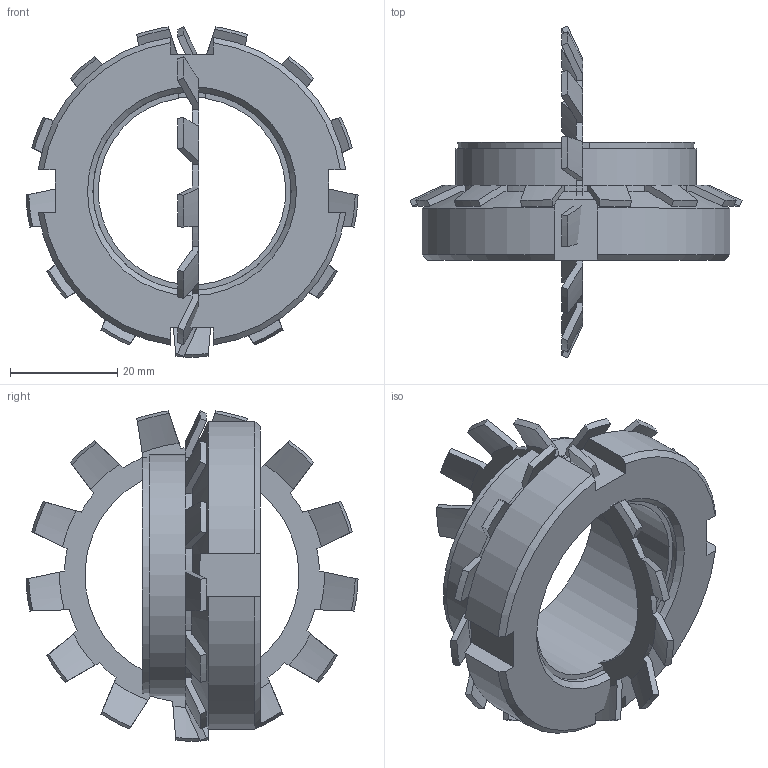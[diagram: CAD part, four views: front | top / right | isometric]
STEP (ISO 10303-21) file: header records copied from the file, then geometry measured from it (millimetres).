
FILE_DESCRIPTION( ( 'Unknown' ), '1' );
FILE_NAME( 'C:/Dokumente und Einstellungen/Sven/Desktop/homepage/cad - homepage/KBS51/KBS 51 - 35 x 45.stp', 'Unknown', ( 'Unknown' ), ( 'Unknown' ), 'XStep 1.0', 'Unknown', ' ' );
FILE_SCHEMA( ( 'automotive_design' ) );
Length unit declared in the file: millimetre
Products named in the file (3): Assem1; KBS 51 - 35 x 45; 08570082_locking_plate_din_5406_mb_8_2_14a
Bounding box: 61.98 x 61.98 x 61.66 mm (x, y, z)
Volume: 50208.3 mm3; surface area: 24014.8 mm2
Topology: 4 solids, 4 shells, 240 faces, 688 edges, 456 vertices
Faces by surface type: plane 104, cone 94, cylinder 42
Full cylindrical faces by diameter (mm): 37 x2, 45 x2
Entity records: 5906 total; most frequent: CARTESIAN_POINT 903, ORIENTED_EDGE 676, DIRECTION 640, EDGE_CURVE 338, STYLED_ITEM 330, PRESENTATION_STYLE_ASSIGNMENT 330, COLOUR_RGB 330, AXIS2_PLACEMENT_3D 253
